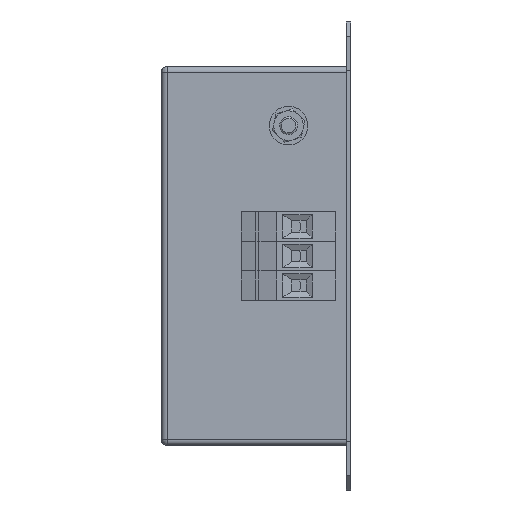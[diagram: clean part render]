
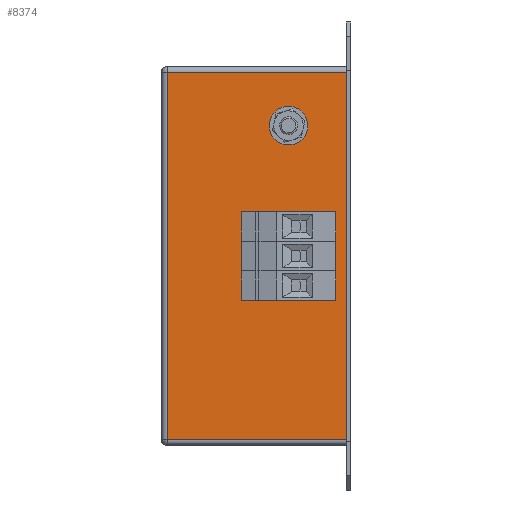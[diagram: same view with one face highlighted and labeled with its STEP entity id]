
A CAD part, left-side view. The second image highlights one B-rep face of the part: STEP entity #8374.
In plain terms, the highlighted planar face has unit normal (-1, 0, 0).
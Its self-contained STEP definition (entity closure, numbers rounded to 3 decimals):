
#85 = DIRECTION ( 'NONE',  ( 0., 0., -1. ) ) ;
#97 = ORIENTED_EDGE ( 'NONE', *, *, #413, .T. ) ;
#174 = VECTOR ( 'NONE', #249, 1000. ) ;
#202 = ORIENTED_EDGE ( 'NONE', *, *, #8242, .T. ) ;
#229 = EDGE_CURVE ( 'NONE', #963, #7181, #2438, .T. ) ;
#237 = VECTOR ( 'NONE', #7462, 1000. ) ;
#244 = DIRECTION ( 'NONE',  ( 1., 0., 0. ) ) ;
#249 = DIRECTION ( 'NONE',  ( 0., 0., -1. ) ) ;
#266 = DIRECTION ( 'NONE',  ( 1., 0., 0. ) ) ;
#299 = DIRECTION ( 'NONE',  ( 0., 1., 0. ) ) ;
#330 = EDGE_LOOP ( 'NONE', ( #202, #97 ) ) ;
#413 = EDGE_CURVE ( 'NONE', #6675, #4319, #8147, .T. ) ;
#451 = AXIS2_PLACEMENT_3D ( 'NONE', #4395, #266, #7206 ) ;
#475 = EDGE_CURVE ( 'NONE', #7181, #3690, #1545, .T. ) ;
#484 = DIRECTION ( 'NONE',  ( 0., 0., -1. ) ) ;
#508 = DIRECTION ( 'NONE',  ( 1., 0., 0. ) ) ;
#544 = VERTEX_POINT ( 'NONE', #3230 ) ;
#556 = EDGE_LOOP ( 'NONE', ( #8398, #3046 ) ) ;
#897 = ORIENTED_EDGE ( 'NONE', *, *, #475, .T. ) ;
#963 = VERTEX_POINT ( 'NONE', #7533 ) ;
#1022 = CARTESIAN_POINT ( 'NONE',  ( 0., 1.5, 15. ) ) ;
#1025 = AXIS2_PLACEMENT_3D ( 'NONE', #1603, #244, #7858 ) ;
#1065 = CARTESIAN_POINT ( 'NONE',  ( 0., 21., 73.1 ) ) ;
#1248 = CARTESIAN_POINT ( 'NONE',  ( 0., 64., 17. ) ) ;
#1263 = EDGE_CURVE ( 'NONE', #3690, #6926, #5867, .T. ) ;
#1360 = CIRCLE ( 'NONE', #451, 4.1 ) ;
#1363 = AXIS2_PLACEMENT_3D ( 'NONE', #6378, #5620, #85 ) ;
#1371 = AXIS2_PLACEMENT_3D ( 'NONE', #3776, #8629, #5099 ) ;
#1545 = LINE ( 'NONE', #1248, #237 ) ;
#1595 = CARTESIAN_POINT ( 'NONE',  ( 0., 1.5, 17. ) ) ;
#1603 = CARTESIAN_POINT ( 'NONE',  ( 0., 21., 69. ) ) ;
#1627 = EDGE_LOOP ( 'NONE', ( #2612, #897, #5480, #8250 ) ) ;
#1749 = EDGE_CURVE ( 'NONE', #544, #8734, #2257, .T. ) ;
#1763 = CARTESIAN_POINT ( 'NONE',  ( 0., 21., 64.9 ) ) ;
#2014 = LINE ( 'NONE', #7784, #3219 ) ;
#2034 = AXIS2_PLACEMENT_3D ( 'NONE', #7143, #3753, #4464 ) ;
#2142 = DIRECTION ( 'NONE',  ( 1., 0., 0. ) ) ;
#2253 = ORIENTED_EDGE ( 'NONE', *, *, #9000, .T. ) ;
#2257 = CIRCLE ( 'NONE', #2034, 4.1 ) ;
#2280 = VERTEX_POINT ( 'NONE', #4391 ) ;
#2330 = EDGE_LOOP ( 'NONE', ( #3963, #2253 ) ) ;
#2344 = EDGE_CURVE ( 'NONE', #4546, #5556, #6058, .T. ) ;
#2436 = DIRECTION ( 'NONE',  ( 0., 0., 1. ) ) ;
#2438 = LINE ( 'NONE', #2986, #174 ) ;
#2612 = ORIENTED_EDGE ( 'NONE', *, *, #229, .T. ) ;
#2814 = CARTESIAN_POINT ( 'NONE',  ( 0., 21., 123. ) ) ;
#2960 = AXIS2_PLACEMENT_3D ( 'NONE', #2814, #2142, #9019 ) ;
#2986 = CARTESIAN_POINT ( 'NONE',  ( 0., 62., 15. ) ) ;
#3046 = ORIENTED_EDGE ( 'NONE', *, *, #2344, .T. ) ;
#3101 = DIRECTION ( 'NONE',  ( 1., 0., 0. ) ) ;
#3219 = VECTOR ( 'NONE', #299, 1000. ) ;
#3230 = CARTESIAN_POINT ( 'NONE',  ( 0., 21., 84.9 ) ) ;
#3505 = CARTESIAN_POINT ( 'NONE',  ( 0., 1.5, 141. ) ) ;
#3690 = VERTEX_POINT ( 'NONE', #1595 ) ;
#3691 = CARTESIAN_POINT ( 'NONE',  ( 0., 21., 89. ) ) ;
#3720 = DIRECTION ( 'NONE',  ( 0., 0., -1. ) ) ;
#3753 = DIRECTION ( 'NONE',  ( 1., 0., 0. ) ) ;
#3776 = CARTESIAN_POINT ( 'NONE',  ( 0., 21., 123. ) ) ;
#3895 = CIRCLE ( 'NONE', #4000, 4.1 ) ;
#3963 = ORIENTED_EDGE ( 'NONE', *, *, #5028, .T. ) ;
#4000 = AXIS2_PLACEMENT_3D ( 'NONE', #3691, #4477, #3720 ) ;
#4092 = EDGE_CURVE ( 'NONE', #5556, #4546, #6716, .T. ) ;
#4202 = CARTESIAN_POINT ( 'NONE',  ( 0., 21., 126. ) ) ;
#4319 = VERTEX_POINT ( 'NONE', #1763 ) ;
#4338 = EDGE_CURVE ( 'NONE', #8734, #544, #3895, .T. ) ;
#4391 = CARTESIAN_POINT ( 'NONE',  ( 0., 21., 74.9 ) ) ;
#4395 = CARTESIAN_POINT ( 'NONE',  ( 0., 21., 79. ) ) ;
#4464 = DIRECTION ( 'NONE',  ( 0., 0., -1. ) ) ;
#4477 = DIRECTION ( 'NONE',  ( 1., 0., 0. ) ) ;
#4485 = FACE_BOUND ( 'NONE', #330, .T. ) ;
#4546 = VERTEX_POINT ( 'NONE', #4202 ) ;
#4589 = FACE_BOUND ( 'NONE', #2330, .T. ) ;
#4817 = FACE_BOUND ( 'NONE', #6968, .T. ) ;
#4991 = VECTOR ( 'NONE', #2436, 1000. ) ;
#5028 = EDGE_CURVE ( 'NONE', #2280, #7196, #6624, .T. ) ;
#5099 = DIRECTION ( 'NONE',  ( 0., 0., -1. ) ) ;
#5152 = ORIENTED_EDGE ( 'NONE', *, *, #4338, .T. ) ;
#5265 = PLANE ( 'NONE',  #5503 ) ;
#5480 = ORIENTED_EDGE ( 'NONE', *, *, #1263, .T. ) ;
#5503 = AXIS2_PLACEMENT_3D ( 'NONE', #8708, #3101, #7275 ) ;
#5511 = ORIENTED_EDGE ( 'NONE', *, *, #1749, .T. ) ;
#5556 = VERTEX_POINT ( 'NONE', #8831 ) ;
#5599 = AXIS2_PLACEMENT_3D ( 'NONE', #6125, #508, #484 ) ;
#5620 = DIRECTION ( 'NONE',  ( 1., 0., 0. ) ) ;
#5843 = CARTESIAN_POINT ( 'NONE',  ( 0., 62., 17. ) ) ;
#5867 = LINE ( 'NONE', #1022, #4991 ) ;
#6058 = CIRCLE ( 'NONE', #1371, 3. ) ;
#6125 = CARTESIAN_POINT ( 'NONE',  ( 0., 21., 69. ) ) ;
#6356 = FACE_OUTER_BOUND ( 'NONE', #1627, .T. ) ;
#6378 = CARTESIAN_POINT ( 'NONE',  ( 0., 21., 79. ) ) ;
#6464 = CIRCLE ( 'NONE', #1025, 4.1 ) ;
#6624 = CIRCLE ( 'NONE', #1363, 4.1 ) ;
#6675 = VERTEX_POINT ( 'NONE', #1065 ) ;
#6716 = CIRCLE ( 'NONE', #2960, 3. ) ;
#6926 = VERTEX_POINT ( 'NONE', #3505 ) ;
#6968 = EDGE_LOOP ( 'NONE', ( #5511, #5152 ) ) ;
#7103 = FACE_BOUND ( 'NONE', #556, .T. ) ;
#7143 = CARTESIAN_POINT ( 'NONE',  ( 0., 21., 89. ) ) ;
#7181 = VERTEX_POINT ( 'NONE', #5843 ) ;
#7186 = EDGE_CURVE ( 'NONE', #6926, #963, #2014, .T. ) ;
#7196 = VERTEX_POINT ( 'NONE', #7940 ) ;
#7206 = DIRECTION ( 'NONE',  ( 0., 0., -1. ) ) ;
#7275 = DIRECTION ( 'NONE',  ( 0., 0., -1. ) ) ;
#7462 = DIRECTION ( 'NONE',  ( 0., -1., 0. ) ) ;
#7533 = CARTESIAN_POINT ( 'NONE',  ( 0., 62., 141. ) ) ;
#7784 = CARTESIAN_POINT ( 'NONE',  ( 0., 64., 141. ) ) ;
#7858 = DIRECTION ( 'NONE',  ( 0., 0., -1. ) ) ;
#7940 = CARTESIAN_POINT ( 'NONE',  ( 0., 21., 83.1 ) ) ;
#8147 = CIRCLE ( 'NONE', #5599, 4.1 ) ;
#8230 = CARTESIAN_POINT ( 'NONE',  ( 0., 21., 93.1 ) ) ;
#8242 = EDGE_CURVE ( 'NONE', #4319, #6675, #6464, .T. ) ;
#8250 = ORIENTED_EDGE ( 'NONE', *, *, #7186, .T. ) ;
#8374 = ADVANCED_FACE ( 'NONE', ( #7103, #4817, #4589, #4485, #6356 ), #5265, .F. ) ;
#8398 = ORIENTED_EDGE ( 'NONE', *, *, #4092, .T. ) ;
#8629 = DIRECTION ( 'NONE',  ( 1., 0., 0. ) ) ;
#8708 = CARTESIAN_POINT ( 'NONE',  ( 0., 64., 15. ) ) ;
#8734 = VERTEX_POINT ( 'NONE', #8230 ) ;
#8831 = CARTESIAN_POINT ( 'NONE',  ( 0., 21., 120. ) ) ;
#9000 = EDGE_CURVE ( 'NONE', #7196, #2280, #1360, .T. ) ;
#9019 = DIRECTION ( 'NONE',  ( 0., 0., -1. ) ) ;
